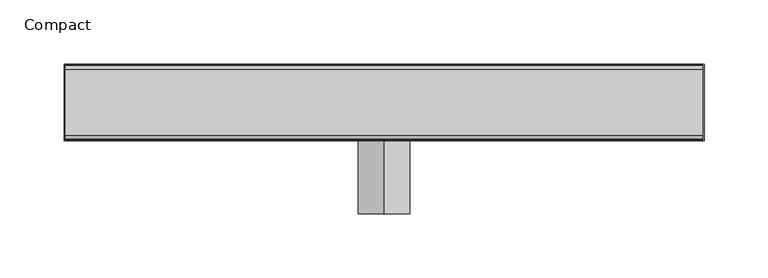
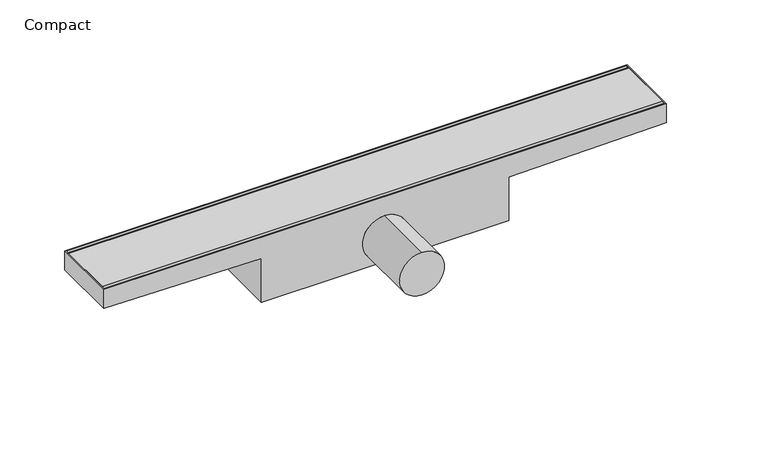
"""IFC4 building model written with IfcOpenShell, lengths in millimetres: sanitary terminal geometry, NLRS_PF_52_UN_Compact_Easydrain : Compact."""

from ifc_helpers import new_model, si_unit, point, frame, frame_2d, origin, place, context, project, spatial, polyline, circle_curve, trimmed, segment, composite_curve, outline, extrude, source, transform, mapped, element, save
from ifc_brep_helpers import plane_surface, cylinder_surface, advanced_brep


def compact_a988ca50(model_context):
    return source(origin(), model_context, "Body", "SolidModel", [
        extrude(outline(composite_curve([segment(polyline([(-25.5, 0.0), (25.5, 0.0)]), True, "CONTINUOUS"), segment(trimmed(circle_curve(frame_2d((25.5, -3.0)), 3.0), [point((25.5, 0.0))], [point((28.5, -3.0))], False, "CARTESIAN"), True, "CONTINUOUS"), segment(polyline([(28.5, -3.0), (28.5, -12.0), (-28.5, -12.0), (-28.5, -3.0)]), True, "CONTINUOUS"), segment(trimmed(circle_curve(frame_2d((-25.5, -3.0)), 3.0), [point((-28.5, -3.0))], [point((-25.5, 0.0))], False, "CARTESIAN"), True, "CONTINUOUS")], self_intersect=False)), frame((-249.0, 0.0, 0.0), z_axis=(1.0, 0.0, 0.0), x_axis=(0.0, 1.0, 0.0)), (0.0, 0.0, 1.0), 498.0),
        advanced_brep(
        [(-250.0, -30.0, -18.0), (-110.0, -30.0, -20.0), (-110.0, -30.0, -61.0), (110.0, -30.0, -61.0), (110.0, -30.0, -20.0), (250.0, -30.0, -18.0), (250.0, -30.0, 0.0), (-250.0, -30.0, 0.0), (0.0, -30.0, -18.0), (0.0, -30.0, -58.0), (-250.0, 30.0, -18.0), (-250.0, 30.0, 0.0), (250.0, 30.0, 0.0), (250.0, 30.0, -18.0), (110.0, 30.0, -20.0), (110.0, 30.0, -61.0), (-110.0, 30.0, -61.0), (-110.0, 30.0, -20.0), (-249.0, 29.0, 0.0), (249.0, 29.0, 0.0), (249.0, -29.0, 0.0), (-249.0, -29.0, 0.0), (0.0, -87.0466767, -18.0), (0.0, -87.0466767, -58.0), (249.0, 29.0, -12.0), (-249.0, 29.0, -12.0), (-249.0, -29.0, -12.0), (249.0, -29.0, -12.0)],
        [
            (0, 1),
            (1, 2),
            (2, 3),
            (3, 4),
            (4, 5),
            (5, 6),
            (6, 7),
            (7, 0),
            (8, 9, circle_curve(frame((0.0, -30.0, -38.0), z_axis=(0.0, 1.0, 0.0), x_axis=(0.0, 0.0, -1.0)), 20.0)),
            (9, 8, circle_curve(frame((0.0, -30.0, -38.0), z_axis=(0.0, 1.0, 0.0), x_axis=(0.0, 0.0, -1.0)), 20.0)),
            (10, 11),
            (11, 12),
            (12, 13),
            (13, 14),
            (14, 15),
            (15, 16),
            (16, 17),
            (17, 10),
            (0, 10),
            (17, 1),
            (5, 13),
            (12, 6),
            (11, 7),
            (18, 19),
            (19, 20),
            (20, 21),
            (21, 18),
            (16, 2),
            (15, 3),
            (14, 4),
            (22, 23, circle_curve(frame((0.0, -87.0466767, -38.0), z_axis=(0.0, -1.0, 0.0), x_axis=(0.0, 0.0, -1.0)), 20.0)),
            (23, 22, circle_curve(frame((0.0, -87.0466767, -38.0), z_axis=(0.0, -1.0, 0.0), x_axis=(0.0, 0.0, -1.0)), 20.0)),
            (23, 9),
            (8, 22),
            (24, 25),
            (25, 26),
            (26, 27),
            (27, 24),
            (24, 19),
            (18, 25),
            (21, 26),
            (20, 27),
        ],
        [
            plane_surface(frame((-250.0, -30.0, -18.0), z_axis=(0.0, -1.0, 0.0), x_axis=(0.99989797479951, 0.0, -0.014284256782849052))),
            plane_surface(frame((-250.0, 30.0, -18.0), z_axis=(0.0, 1.0, 0.0), x_axis=(-0.99989797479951, 0.0, 0.014284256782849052))),
            plane_surface(frame((-250.0, -30.0, -18.0), z_axis=(-0.014284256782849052, 0.0, -0.99989797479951), x_axis=(0.0, 1.0, 0.0))),
            plane_surface(frame((250.0, -30.0, -18.0), z_axis=(1.0, 0.0, 0.0), x_axis=(0.0, 1.0, 0.0))),
            plane_surface(frame((250.0, -30.0, 0.0), z_axis=(0.0, 0.0, 1.0), x_axis=(0.0, 1.0, 0.0))),
            plane_surface(frame((-250.0, -30.0, 0.0), z_axis=(-1.0, 0.0, 0.0), x_axis=(0.0, 1.0, 0.0))),
            plane_surface(frame((-110.0, -30.0, -20.0), z_axis=(-1.0, 0.0, 0.0), x_axis=(0.0, 1.0, 0.0))),
            plane_surface(frame((-110.0, -30.0, -61.0), z_axis=(0.0, 0.0, -1.0), x_axis=(0.0, 1.0, 0.0))),
            plane_surface(frame((110.0, -30.0, -61.0), z_axis=(1.0, 0.0, 0.0), x_axis=(0.0, 1.0, 0.0))),
            plane_surface(frame((110.0, -30.0, -20.0), z_axis=(0.01428425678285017, 0.0, -0.99989797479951), x_axis=(0.0, 1.0, 0.0))),
            plane_surface(frame((0.0, -87.0466767, -38.0), z_axis=(0.0, -1.0, 0.0), x_axis=(1.0, 0.0, 0.0))),
            cylinder_surface(frame((0.0, 0.0, -38.0), z_axis=(0.0, 1.0, 0.0), x_axis=(0.0, 0.0, -1.0)), 20.0),
            plane_surface(frame((-249.0, 29.0, -12.0), z_axis=(0.0, 0.0, 1.0), x_axis=(1.0, 0.0, 0.0))),
            plane_surface(frame((249.0, 29.0, 0.0), z_axis=(0.0, -1.0, 0.0), x_axis=(0.0, 0.0, -1.0))),
            plane_surface(frame((-249.0, 29.0, 0.0), z_axis=(1.0, 0.0, 0.0), x_axis=(0.0, 0.0, -1.0))),
            plane_surface(frame((-249.0, -29.0, 0.0), z_axis=(0.0, 1.0, 0.0), x_axis=(0.0, 0.0, -1.0))),
            plane_surface(frame((249.0, -29.0, 0.0), z_axis=(-1.0, 0.0, 0.0), x_axis=(0.0, 0.0, -1.0))),
        ],
        [
            (0, [[1, 2, 3, 4, 5, 6, 7, 8], [9, 10]]),
            (1, [[11, 12, 13, 14, 15, 16, 17, 18]]),
            (2, [[-1, 19, -18, 20]]),
            (3, [[-6, 21, -13, 22]]),
            (4, [[-7, -22, -12, 23], [24, 25, 26, 27]]),
            (5, [[-8, -23, -11, -19]]),
            (6, [[-2, -20, -17, 28]]),
            (7, [[-3, -28, -16, 29]]),
            (8, [[-4, -29, -15, 30]]),
            (9, [[-5, -30, -14, -21]]),
            (10, [[31, 32]]),
            (11, [[-32, 33, -9, 34]]),
            (11, [[-31, -34, -10, -33]]),
            (12, [[35, 36, 37, 38]]),
            (13, [[-35, 39, -24, 40]]),
            (14, [[-36, -40, -27, 41]]),
            (15, [[-37, -41, -26, 42]]),
            (16, [[-38, -42, -25, -39]]),
        ],
    ),
    ])


if __name__ == "__main__":
    model = new_model("IFC4")
    model_context = context("Model", 3, world=origin())
    ifc_project = project(units=[si_unit("LENGTHUNIT", "METRE", prefix="MILLI")], contexts=[model_context])
    site = spatial("IfcSite", under=ifc_project)
    building = spatial("IfcBuilding", under=site)
    placement = place(None, origin())
    compact_shape = compact_a988ca50(model_context)
    element("IfcSanitaryTerminal", 1, ObjectType="NLRS_PF_52_UN_Compact_Easydrain : Compact", at=placement, inside=building, context=model_context, shape_type="MappedRepresentation", body=[
        mapped(compact_shape, transform((0.0, 0.0, 0.0), x_axis=(1.0, 0.0, 0.0), y_axis=(0.0, 1.0, 0.0), z_axis=(0.0, 0.0, 1.0))),
    ])
    save(model, "model.ifc")
